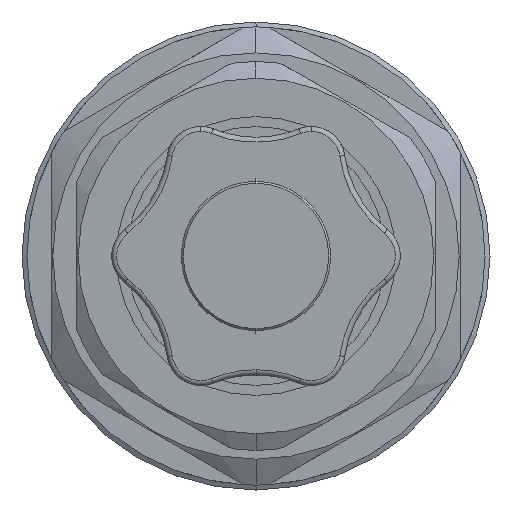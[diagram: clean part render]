
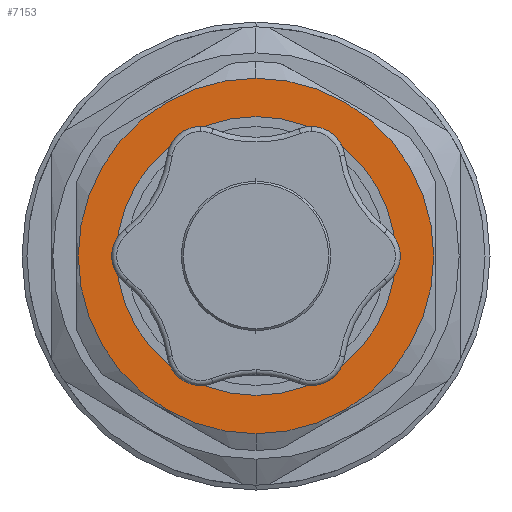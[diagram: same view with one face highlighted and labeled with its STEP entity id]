
A CAD part, left-side view. The second image highlights one B-rep face of the part: STEP entity #7153.
In plain terms, the highlighted planar face has unit normal (-1, 0, 0).
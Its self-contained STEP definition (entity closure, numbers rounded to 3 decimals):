
#46 = DIRECTION ( 'NONE',  ( -1., 0., 0. ) ) ;
#54 = CARTESIAN_POINT ( 'NONE',  ( 0., 0., -14. ) ) ;
#600 = VERTEX_POINT ( 'NONE', #1859 ) ;
#959 = AXIS2_PLACEMENT_3D ( 'NONE', #7116, #2095, #7949 ) ;
#1375 = ORIENTED_EDGE ( 'NONE', *, *, #8744, .F. ) ;
#1494 = CIRCLE ( 'NONE', #3617, 17.85 ) ;
#1859 = CARTESIAN_POINT ( 'NONE',  ( 0., 0., 14. ) ) ;
#2095 = DIRECTION ( 'NONE',  ( -1., 0., 0. ) ) ;
#2181 = EDGE_CURVE ( 'NONE', #8946, #4033, #1494, .T. ) ;
#2281 = CARTESIAN_POINT ( 'NONE',  ( 0., 0., 0. ) ) ;
#2923 = CARTESIAN_POINT ( 'NONE',  ( 0., 0., -17.85 ) ) ;
#3109 = DIRECTION ( 'NONE',  ( 0., 0., 1. ) ) ;
#3140 = DIRECTION ( 'NONE',  ( 0., 0., 1. ) ) ;
#3416 = CARTESIAN_POINT ( 'NONE',  ( 0., 0., 0. ) ) ;
#3451 = AXIS2_PLACEMENT_3D ( 'NONE', #3416, #9244, #4270 ) ;
#3617 = AXIS2_PLACEMENT_3D ( 'NONE', #8923, #9778, #3109 ) ;
#4033 = VERTEX_POINT ( 'NONE', #10103 ) ;
#4159 = ORIENTED_EDGE ( 'NONE', *, *, #4922, .T. ) ;
#4270 = DIRECTION ( 'NONE',  ( 0., 0., 1. ) ) ;
#4922 = EDGE_CURVE ( 'NONE', #4033, #8946, #7976, .T. ) ;
#5055 = CARTESIAN_POINT ( 'NONE',  ( 0., 0., 0. ) ) ;
#5242 = FACE_BOUND ( 'NONE', #7743, .T. ) ;
#5290 = CIRCLE ( 'NONE', #3451, 14. ) ;
#5332 = VERTEX_POINT ( 'NONE', #54 ) ;
#5412 = AXIS2_PLACEMENT_3D ( 'NONE', #5055, #46, #5906 ) ;
#5457 = ORIENTED_EDGE ( 'NONE', *, *, #5877, .F. ) ;
#5877 = EDGE_CURVE ( 'NONE', #5332, #600, #9228, .T. ) ;
#5906 = DIRECTION ( 'NONE',  ( 0., 0., 1. ) ) ;
#7116 = CARTESIAN_POINT ( 'NONE',  ( 0., 0., 0. ) ) ;
#7153 = ADVANCED_FACE ( 'NONE', ( #5242, #9646 ), #7407, .T. ) ;
#7407 = PLANE ( 'NONE',  #5412 ) ;
#7743 = EDGE_LOOP ( 'NONE', ( #1375, #5457 ) ) ;
#7949 = DIRECTION ( 'NONE',  ( 0., 0., 1. ) ) ;
#7976 = CIRCLE ( 'NONE', #9331, 17.85 ) ;
#8126 = DIRECTION ( 'NONE',  ( -1., 0., 0. ) ) ;
#8156 = EDGE_LOOP ( 'NONE', ( #9086, #4159 ) ) ;
#8744 = EDGE_CURVE ( 'NONE', #600, #5332, #5290, .T. ) ;
#8923 = CARTESIAN_POINT ( 'NONE',  ( 0., 0., 0. ) ) ;
#8946 = VERTEX_POINT ( 'NONE', #2923 ) ;
#9086 = ORIENTED_EDGE ( 'NONE', *, *, #2181, .T. ) ;
#9228 = CIRCLE ( 'NONE', #959, 14. ) ;
#9244 = DIRECTION ( 'NONE',  ( -1., 0., 0. ) ) ;
#9331 = AXIS2_PLACEMENT_3D ( 'NONE', #2281, #8126, #3140 ) ;
#9646 = FACE_OUTER_BOUND ( 'NONE', #8156, .T. ) ;
#9778 = DIRECTION ( 'NONE',  ( -1., 0., 0. ) ) ;
#10103 = CARTESIAN_POINT ( 'NONE',  ( 0., 0., 17.85 ) ) ;
